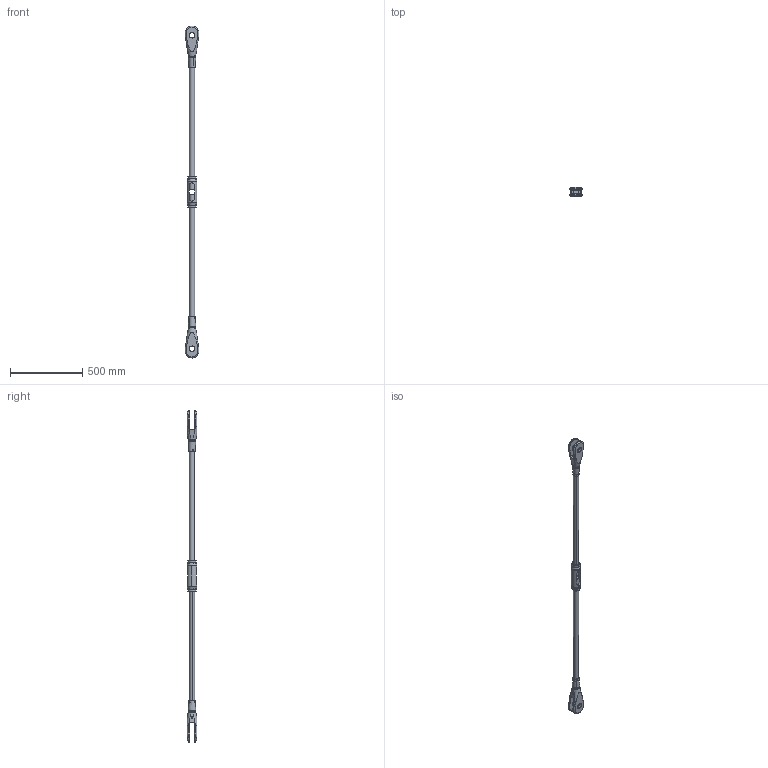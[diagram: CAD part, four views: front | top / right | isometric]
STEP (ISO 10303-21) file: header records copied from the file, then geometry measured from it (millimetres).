
FILE_DESCRIPTION (( 'STEP AP214' ), '1' );
FILE_NAME ('M36 G+AB+K.STEP', '2018-01-18T13:41:31', ( 'install' ), ( 'Hewlett-Packard Company' ), 'SwSTEP 2.0', 'SolidWorks 2017', '' );
FILE_SCHEMA (( 'AUTOMOTIVE_DESIGN' ));
Length unit declared in the file: millimetre
Products named in the file (5): M36 G+AB+K; Zugstab_M36; Kreuzmuffe_M36; Abdeckhülse_generisch_M36; Gabelkopf Kunde_M36
Assembly tree (7 placements, depth 2):
  M36 G+AB+K
    Gabelkopf Kunde_M36  x2
    Abdeckhülse_generisch_M36  x2
    Kreuzmuffe_M36
    Zugstab_M36  x2
Bounding box: 96.96 x 68.98 x 2305 mm (x, y, z)
Volume: 3473465.4 mm3; surface area: 505253.7 mm2
Topology: 7 solids, 7 shells, 253 faces, 649 edges, 398 vertices
Faces by surface type: cylinder 136, plane 46, cone 30, torus 26, bspline 15
Entity records: 12191 total; most frequent: CARTESIAN_POINT 8137, ORIENTED_EDGE 892, DIRECTION 742, EDGE_CURVE 446, AXIS2_PLACEMENT_3D 302, VERTEX_POINT 274, EDGE_LOOP 188, FACE_OUTER_BOUND 171
